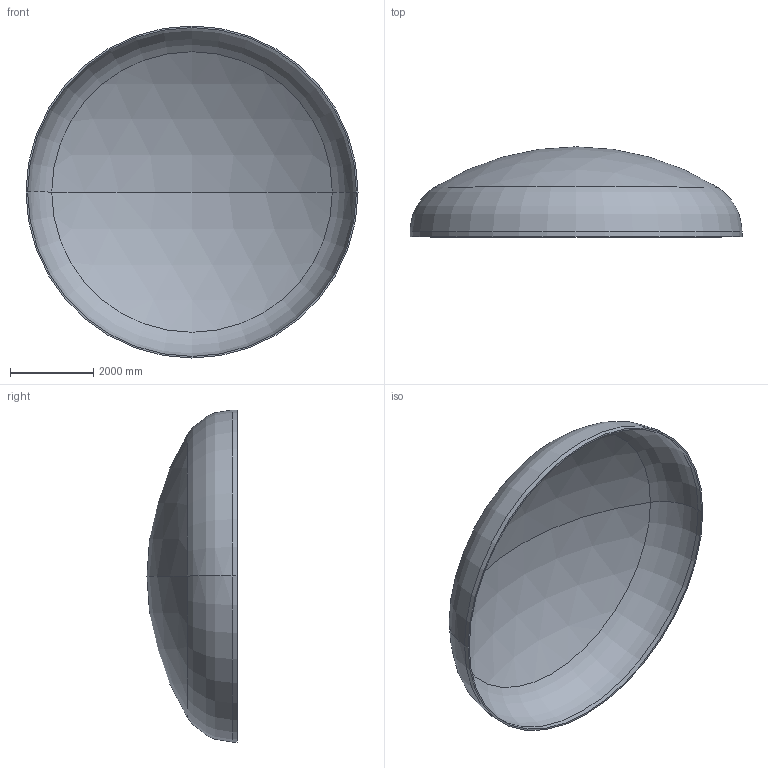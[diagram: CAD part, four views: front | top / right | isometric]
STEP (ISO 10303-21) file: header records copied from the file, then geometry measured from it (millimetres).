
FILE_DESCRIPTION (( 'STEP AP203' ), '1' );
FILE_NAME ('DIN 28013 Korbbogenform_-_Boden DIN 28013 - 8000 x 120 - I - s=39.step', '2016-07-04T11:01:12', ( '' ), ( '' ), 'SwSTEP 2.0', 'SolidWorks 2013', '' );
FILE_SCHEMA (( 'CONFIG_CONTROL_DESIGN' ));
Length unit declared in the file: millimetre
Products named in the file (1): DIN 28013 Korbbogenform_-_Boden DIN 28013 - 8000 x 120 - I - s=39
Bounding box: 8000 x 2169.18 x 8000 mm (x, y, z)
Volume: 2813914899.1 mm3; surface area: 145281855 mm2
Topology: 1 solids, 1 shells, 13 faces, 24 edges, 14 vertices
Faces by surface type: torus 4, cylinder 4, sphere 4, plane 1
Entity records: 407 total; most frequent: DIRECTION 72, CARTESIAN_POINT 52, ORIENTED_EDGE 48, AXIS2_PLACEMENT_3D 34, EDGE_CURVE 24, CIRCLE 20, VERTEX_POINT 14, EDGE_LOOP 14
